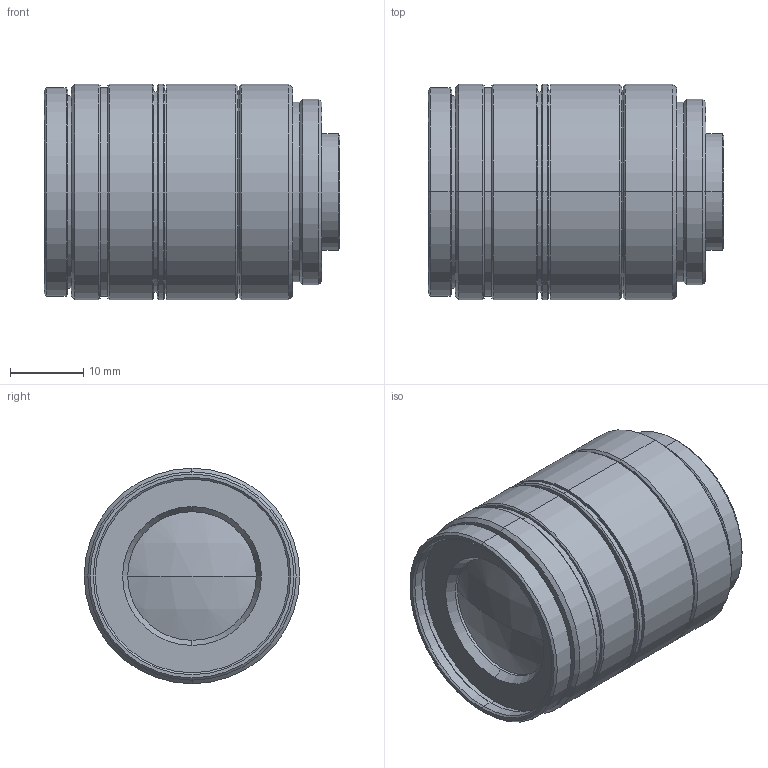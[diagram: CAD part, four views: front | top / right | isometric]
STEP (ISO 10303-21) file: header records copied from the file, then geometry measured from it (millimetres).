
FILE_DESCRIPTION (( 'STEP AP203' ), '1' );
FILE_NAME ('SV-0914H.STEP', '2020-07-28T07:35:58', ( '' ), ( '' ), 'SwSTEP 2.0', 'SolidWorks 2020', '' );
FILE_SCHEMA (( 'CONFIG_CONTROL_DESIGN' ));
Length unit declared in the file: millimetre
Products named in the file (1): SV-0914H
Bounding box: 40.47 x 29.5 x 29.5 mm (x, y, z)
Volume: 23690.6 mm3; surface area: 5841 mm2
Topology: 1 solids, 1 shells, 89 faces, 180 edges, 108 vertices
Faces by surface type: cone 36, cylinder 34, plane 15, sphere 4
Entity records: 2413 total; most frequent: DIRECTION 470, CARTESIAN_POINT 378, ORIENTED_EDGE 360, AXIS2_PLACEMENT_3D 200, EDGE_CURVE 180, CIRCLE 110, VERTEX_POINT 108, EDGE_LOOP 104
